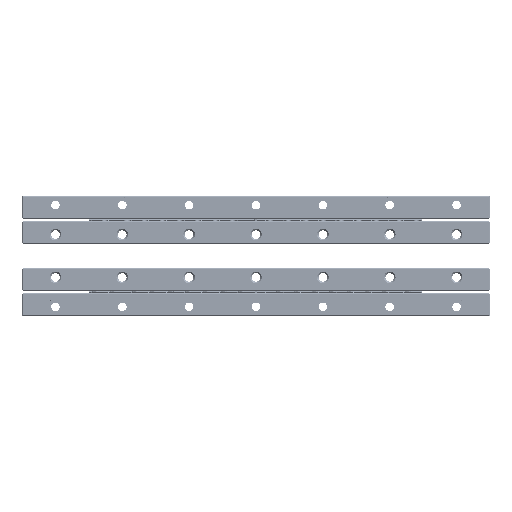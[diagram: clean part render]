
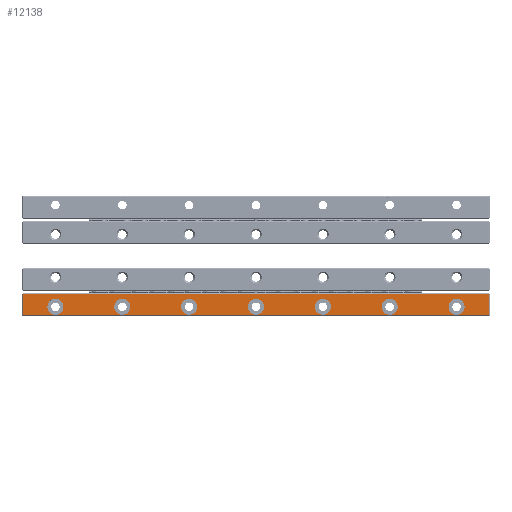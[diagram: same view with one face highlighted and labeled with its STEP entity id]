
A CAD part, top view. The second image highlights one B-rep face of the part: STEP entity #12138.
In plain terms, the highlighted planar face has unit normal (0, 0, 1).
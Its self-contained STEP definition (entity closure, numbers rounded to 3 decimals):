
#2664=FACE_BOUND('',#22648,.T.);
#2665=FACE_BOUND('',#22649,.T.);
#2666=FACE_BOUND('',#22650,.T.);
#2667=FACE_BOUND('',#22651,.T.);
#2668=FACE_BOUND('',#22652,.T.);
#2669=FACE_BOUND('',#22653,.T.);
#2670=FACE_BOUND('',#22654,.T.);
#2671=FACE_BOUND('',#22655,.T.);
#4921=CIRCLE('',#86664,3.);
#4922=CIRCLE('',#86665,3.);
#4923=CIRCLE('',#86666,3.);
#4924=CIRCLE('',#86667,3.);
#4925=CIRCLE('',#86668,3.);
#4926=CIRCLE('',#86669,3.);
#4927=CIRCLE('',#86670,3.);
#12138=ADVANCED_FACE('',(#2664,#2665,#2666,#2667,#2668,#2669,#2670,#2671),
#16711,.T.);
#16711=PLANE('',#86671);
#22648=EDGE_LOOP('',(#32912));
#22649=EDGE_LOOP('',(#32913));
#22650=EDGE_LOOP('',(#32914));
#22651=EDGE_LOOP('',(#32915));
#22652=EDGE_LOOP('',(#32916));
#22653=EDGE_LOOP('',(#32917));
#22654=EDGE_LOOP('',(#32918));
#22655=EDGE_LOOP('',(#32919,#32920,#32921,#32922));
#32912=ORIENTED_EDGE('',*,*,#62587,.T.);
#32913=ORIENTED_EDGE('',*,*,#62588,.T.);
#32914=ORIENTED_EDGE('',*,*,#62589,.T.);
#32915=ORIENTED_EDGE('',*,*,#62590,.T.);
#32916=ORIENTED_EDGE('',*,*,#62591,.T.);
#32917=ORIENTED_EDGE('',*,*,#62592,.T.);
#32918=ORIENTED_EDGE('',*,*,#62593,.T.);
#32919=ORIENTED_EDGE('',*,*,#62594,.T.);
#32920=ORIENTED_EDGE('',*,*,#62595,.T.);
#32921=ORIENTED_EDGE('',*,*,#62596,.T.);
#32922=ORIENTED_EDGE('',*,*,#62597,.T.);
#53439=VERTEX_POINT('',#125307);
#53440=VERTEX_POINT('',#125309);
#53441=VERTEX_POINT('',#125311);
#53442=VERTEX_POINT('',#125313);
#53443=VERTEX_POINT('',#125315);
#53444=VERTEX_POINT('',#125317);
#53445=VERTEX_POINT('',#125319);
#53446=VERTEX_POINT('',#125321);
#53447=VERTEX_POINT('',#125322);
#53448=VERTEX_POINT('',#125324);
#53449=VERTEX_POINT('',#125326);
#62587=EDGE_CURVE('',#53439,#53439,#4921,.T.);
#62588=EDGE_CURVE('',#53440,#53440,#4922,.T.);
#62589=EDGE_CURVE('',#53441,#53441,#4923,.T.);
#62590=EDGE_CURVE('',#53442,#53442,#4924,.T.);
#62591=EDGE_CURVE('',#53443,#53443,#4925,.T.);
#62592=EDGE_CURVE('',#53444,#53444,#4926,.T.);
#62593=EDGE_CURVE('',#53445,#53445,#4927,.T.);
#62594=EDGE_CURVE('',#53446,#53447,#74550,.T.);
#62595=EDGE_CURVE('',#53447,#53448,#74551,.T.);
#62596=EDGE_CURVE('',#53448,#53449,#74552,.T.);
#62597=EDGE_CURVE('',#53449,#53446,#74553,.T.);
#74550=LINE('',#125320,#81390);
#74551=LINE('',#125323,#81391);
#74552=LINE('',#125325,#81392);
#74553=LINE('',#125327,#81393);
#81390=VECTOR('',#99325,1.);
#81391=VECTOR('',#99326,1.);
#81392=VECTOR('',#99327,1.);
#81393=VECTOR('',#99328,1.);
#86664=AXIS2_PLACEMENT_3D('',#125306,#99311,#99312);
#86665=AXIS2_PLACEMENT_3D('',#125308,#99313,#99314);
#86666=AXIS2_PLACEMENT_3D('',#125310,#99315,#99316);
#86667=AXIS2_PLACEMENT_3D('',#125312,#99317,#99318);
#86668=AXIS2_PLACEMENT_3D('',#125314,#99319,#99320);
#86669=AXIS2_PLACEMENT_3D('',#125316,#99321,#99322);
#86670=AXIS2_PLACEMENT_3D('',#125318,#99323,#99324);
#86671=AXIS2_PLACEMENT_3D('',#125328,#99329,#99330);
#99311=DIRECTION('',(0.,0.,-1.));
#99312=DIRECTION('',(-1.,0.,0.));
#99313=DIRECTION('',(0.,0.,-1.));
#99314=DIRECTION('',(-1.,0.,0.));
#99315=DIRECTION('',(0.,0.,-1.));
#99316=DIRECTION('',(-1.,0.,0.));
#99317=DIRECTION('',(0.,0.,-1.));
#99318=DIRECTION('',(-1.,0.,0.));
#99319=DIRECTION('',(0.,0.,-1.));
#99320=DIRECTION('',(-1.,0.,0.));
#99321=DIRECTION('',(0.,0.,-1.));
#99322=DIRECTION('',(-1.,0.,0.));
#99323=DIRECTION('',(0.,0.,-1.));
#99324=DIRECTION('',(-1.,0.,0.));
#99325=DIRECTION('',(1.,0.,0.));
#99326=DIRECTION('',(0.,1.,0.));
#99327=DIRECTION('',(-1.,0.,0.));
#99328=DIRECTION('',(0.,-1.,0.));
#99329=DIRECTION('',(0.,0.,1.));
#99330=DIRECTION('',(1.,0.,0.));
#125306=CARTESIAN_POINT('',(162.5,3.5,8.));
#125307=CARTESIAN_POINT('',(159.5,3.5,8.));
#125308=CARTESIAN_POINT('',(137.5,3.5,8.));
#125309=CARTESIAN_POINT('',(134.5,3.5,8.));
#125310=CARTESIAN_POINT('',(112.5,3.5,8.));
#125311=CARTESIAN_POINT('',(109.5,3.5,8.));
#125312=CARTESIAN_POINT('',(87.5,3.5,8.));
#125313=CARTESIAN_POINT('',(84.5,3.5,8.));
#125314=CARTESIAN_POINT('',(62.5,3.5,8.));
#125315=CARTESIAN_POINT('',(59.5,3.5,8.));
#125316=CARTESIAN_POINT('',(37.5,3.5,8.));
#125317=CARTESIAN_POINT('',(34.5,3.5,8.));
#125318=CARTESIAN_POINT('',(12.5,3.5,8.));
#125319=CARTESIAN_POINT('',(9.5,3.5,8.));
#125320=CARTESIAN_POINT('',(87.5,0.425,8.));
#125321=CARTESIAN_POINT('',(0.425,0.425,8.));
#125322=CARTESIAN_POINT('',(174.575,0.425,8.));
#125323=CARTESIAN_POINT('',(174.575,4.3,8.));
#125324=CARTESIAN_POINT('',(174.575,8.175,8.));
#125325=CARTESIAN_POINT('',(87.5,8.175,8.));
#125326=CARTESIAN_POINT('',(0.425,8.175,8.));
#125327=CARTESIAN_POINT('',(0.425,4.3,8.));
#125328=CARTESIAN_POINT('',(87.5,4.3,8.));
